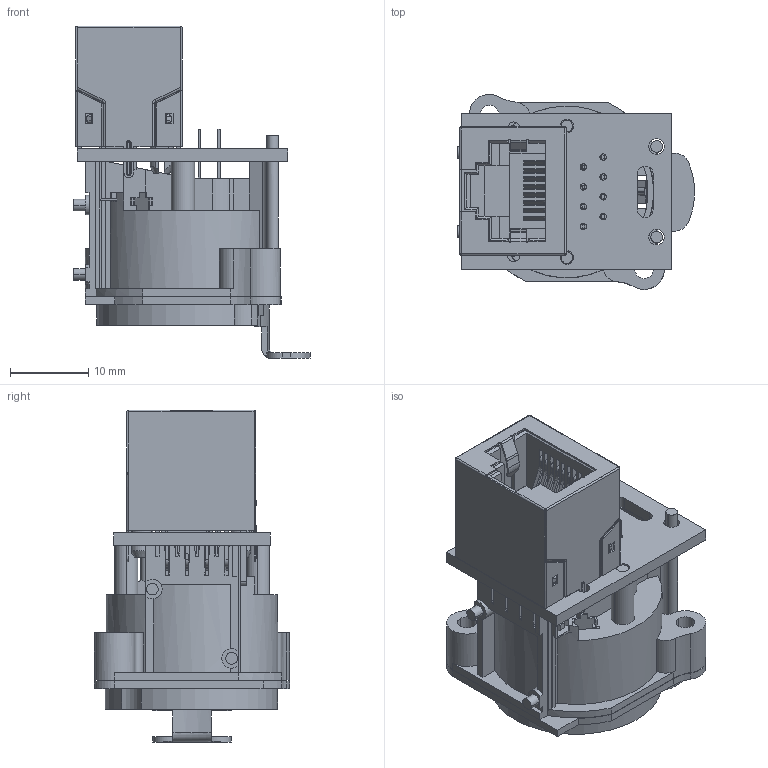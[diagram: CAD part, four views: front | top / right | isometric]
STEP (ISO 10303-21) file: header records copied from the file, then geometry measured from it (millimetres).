
FILE_DESCRIPTION(/* description */ (''),/* implementation_level */ '2;1');
FILE_NAME(/* name */ 'KNZ 180锁直通内芯.stp',/* time_stamp */ '2024-09-21T14:20:28+08:00',/* author */ (''),/* organization */ (''),/* preprocessor_version */ 'ST-DEVELOPER v16',/* originating_system */ 'SIEMENS PLM Software NX 10.0',/* authorisation */ '');
FILE_SCHEMA (('CONFIG_CONTROL_DESIGN'));
Length unit declared in the file: millimetre
Products named in the file (3): rch-5631-m-wdwt_stp; knz-180-ds_stp; KNZ 180° 带锁直通_stp
Assembly tree (2 placements, depth 2):
  KNZ 180° 带锁直通_stp
    knz-180-ds_stp
    rch-5631-m-wdwt_stp
Bounding box: 30.34 x 25 x 42.55 mm (x, y, z)
Volume: 6846.7 mm3; surface area: 14932.5 mm2
Topology: 14 solids, 14 shells, 1851 faces, 5263 edges, 3452 vertices
Faces by surface type: plane 1371, cylinder 373, bspline 50, cone 42, torus 15
Full cylindrical faces by diameter (mm): 0.83 x8, 1.6 x2, 1.7 x2, 2 x2
Entity records: 61539 total; most frequent: CARTESIAN_POINT 12680, ORIENTED_EDGE 10498, DIRECTION 9546, EDGE_CURVE 5249, LINE 4212, VECTOR 4212, VERTEX_POINT 3452, AXIS2_PLACEMENT_3D 2667
